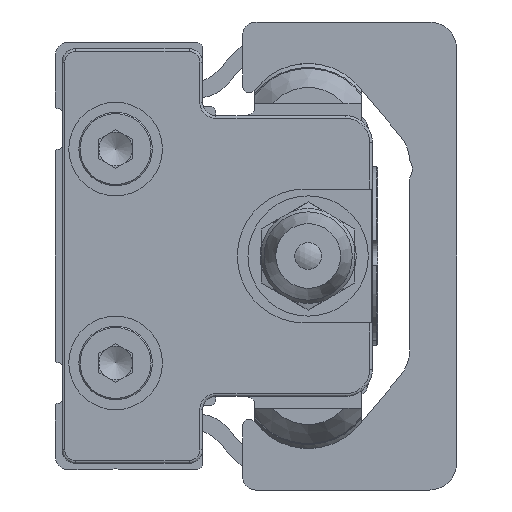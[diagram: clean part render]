
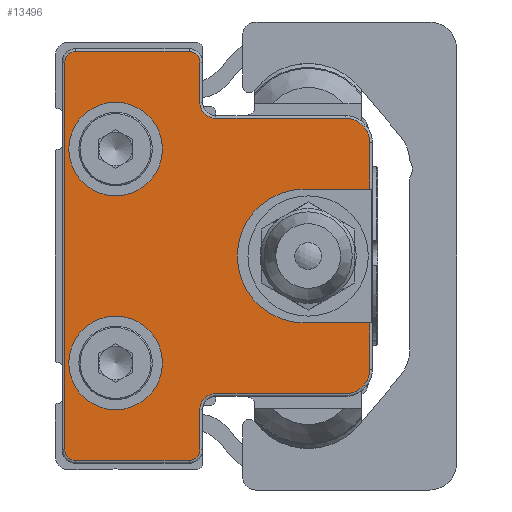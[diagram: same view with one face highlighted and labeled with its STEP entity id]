
A CAD part, left-side view. The second image highlights one B-rep face of the part: STEP entity #13496.
In plain terms, the highlighted planar face has unit normal (-1, 0, 0) as drawn and (0, 0, 1) by its records, which use the part's own axes.
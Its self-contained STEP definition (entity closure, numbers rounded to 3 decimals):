
#715=PLANE('',#15004);
#1609=LINE('',#23216,#2556);
#1610=LINE('',#23219,#2557);
#1611=LINE('',#23223,#2558);
#1612=LINE('',#23227,#2559);
#1613=LINE('',#23231,#2560);
#1614=LINE('',#23235,#2561);
#1615=LINE('',#23239,#2562);
#1616=LINE('',#23243,#2563);
#1617=LINE('',#23247,#2564);
#1618=LINE('',#23251,#2565);
#1619=LINE('',#23253,#2566);
#2556=VECTOR('',#18733,1000.);
#2557=VECTOR('',#18734,1000.);
#2558=VECTOR('',#18737,1000.);
#2559=VECTOR('',#18740,1000.);
#2560=VECTOR('',#18743,1000.);
#2561=VECTOR('',#18746,1000.);
#2562=VECTOR('',#18749,1000.);
#2563=VECTOR('',#18752,1000.);
#2564=VECTOR('',#18755,1000.);
#2565=VECTOR('',#18758,1000.);
#2566=VECTOR('',#18759,1000.);
#5782=ORIENTED_EDGE('',*,*,#7941,.F.);
#5783=ORIENTED_EDGE('',*,*,#7942,.F.);
#5784=ORIENTED_EDGE('',*,*,#7943,.F.);
#5785=ORIENTED_EDGE('',*,*,#7944,.T.);
#5786=ORIENTED_EDGE('',*,*,#7945,.T.);
#5787=ORIENTED_EDGE('',*,*,#7946,.T.);
#5788=ORIENTED_EDGE('',*,*,#7947,.T.);
#5789=ORIENTED_EDGE('',*,*,#7948,.T.);
#5790=ORIENTED_EDGE('',*,*,#7949,.T.);
#5791=ORIENTED_EDGE('',*,*,#7950,.T.);
#5792=ORIENTED_EDGE('',*,*,#7951,.T.);
#5793=ORIENTED_EDGE('',*,*,#7952,.T.);
#5794=ORIENTED_EDGE('',*,*,#7953,.T.);
#5795=ORIENTED_EDGE('',*,*,#7954,.T.);
#5796=ORIENTED_EDGE('',*,*,#7955,.T.);
#5797=ORIENTED_EDGE('',*,*,#7956,.T.);
#5798=ORIENTED_EDGE('',*,*,#7957,.T.);
#5799=ORIENTED_EDGE('',*,*,#7958,.T.);
#5800=ORIENTED_EDGE('',*,*,#7959,.T.);
#5801=ORIENTED_EDGE('',*,*,#7960,.T.);
#5802=ORIENTED_EDGE('',*,*,#7961,.F.);
#5803=ORIENTED_EDGE('',*,*,#7962,.F.);
#7941=EDGE_CURVE('',#9348,#9348,#10137,.T.);
#7942=EDGE_CURVE('',#9349,#9349,#10138,.T.);
#7943=EDGE_CURVE('',#9350,#9351,#1609,.T.);
#7944=EDGE_CURVE('',#9350,#9352,#1610,.T.);
#7945=EDGE_CURVE('',#9352,#9353,#10139,.T.);
#7946=EDGE_CURVE('',#9353,#9354,#1611,.T.);
#7947=EDGE_CURVE('',#9354,#9355,#10140,.F.);
#7948=EDGE_CURVE('',#9355,#9356,#1612,.T.);
#7949=EDGE_CURVE('',#9356,#9357,#10141,.T.);
#7950=EDGE_CURVE('',#9357,#9358,#1613,.T.);
#7951=EDGE_CURVE('',#9358,#9359,#10142,.T.);
#7952=EDGE_CURVE('',#9359,#9360,#1614,.T.);
#7953=EDGE_CURVE('',#9360,#9361,#10143,.T.);
#7954=EDGE_CURVE('',#9361,#9362,#1615,.T.);
#7955=EDGE_CURVE('',#9362,#9363,#10144,.T.);
#7956=EDGE_CURVE('',#9363,#9364,#1616,.T.);
#7957=EDGE_CURVE('',#9364,#9365,#10145,.F.);
#7958=EDGE_CURVE('',#9365,#9366,#1617,.T.);
#7959=EDGE_CURVE('',#9366,#9367,#10146,.T.);
#7960=EDGE_CURVE('',#9367,#9368,#1618,.T.);
#7961=EDGE_CURVE('',#9369,#9368,#1619,.T.);
#7962=EDGE_CURVE('',#9351,#9369,#10147,.T.);
#9348=VERTEX_POINT('',#23213);
#9349=VERTEX_POINT('',#23215);
#9350=VERTEX_POINT('',#23217);
#9351=VERTEX_POINT('',#23218);
#9352=VERTEX_POINT('',#23220);
#9353=VERTEX_POINT('',#23222);
#9354=VERTEX_POINT('',#23224);
#9355=VERTEX_POINT('',#23226);
#9356=VERTEX_POINT('',#23228);
#9357=VERTEX_POINT('',#23230);
#9358=VERTEX_POINT('',#23232);
#9359=VERTEX_POINT('',#23234);
#9360=VERTEX_POINT('',#23236);
#9361=VERTEX_POINT('',#23238);
#9362=VERTEX_POINT('',#23240);
#9363=VERTEX_POINT('',#23242);
#9364=VERTEX_POINT('',#23244);
#9365=VERTEX_POINT('',#23246);
#9366=VERTEX_POINT('',#23248);
#9367=VERTEX_POINT('',#23250);
#9368=VERTEX_POINT('',#23252);
#9369=VERTEX_POINT('',#23254);
#10137=CIRCLE('',#15005,3.5);
#10138=CIRCLE('',#15006,3.5);
#10139=CIRCLE('',#15007,1.8);
#10140=CIRCLE('',#15008,1.2);
#10141=CIRCLE('',#15009,0.8);
#10142=CIRCLE('',#15010,0.8);
#10143=CIRCLE('',#15011,0.8);
#10144=CIRCLE('',#15012,0.8);
#10145=CIRCLE('',#15013,1.2);
#10146=CIRCLE('',#15014,1.8);
#10147=CIRCLE('',#15015,5.);
#11208=EDGE_LOOP('',(#5782));
#11209=EDGE_LOOP('',(#5783));
#11210=EDGE_LOOP('',(#5784,#5785,#5786,#5787,#5788,#5789,#5790,#5791,#5792,
#5793,#5794,#5795,#5796,#5797,#5798,#5799,#5800,#5801,#5802,#5803));
#12349=FACE_BOUND('',#11208,.T.);
#12350=FACE_BOUND('',#11209,.T.);
#12351=FACE_BOUND('',#11210,.T.);
#13496=ADVANCED_FACE('',(#12349,#12350,#12351),#715,.T.);
#15004=AXIS2_PLACEMENT_3D('',#23211,#18727,#18728);
#15005=AXIS2_PLACEMENT_3D('',#23212,#18729,#18730);
#15006=AXIS2_PLACEMENT_3D('',#23214,#18731,#18732);
#15007=AXIS2_PLACEMENT_3D('',#23221,#18735,#18736);
#15008=AXIS2_PLACEMENT_3D('',#23225,#18738,#18739);
#15009=AXIS2_PLACEMENT_3D('',#23229,#18741,#18742);
#15010=AXIS2_PLACEMENT_3D('',#23233,#18744,#18745);
#15011=AXIS2_PLACEMENT_3D('',#23237,#18747,#18748);
#15012=AXIS2_PLACEMENT_3D('',#23241,#18750,#18751);
#15013=AXIS2_PLACEMENT_3D('',#23245,#18753,#18754);
#15014=AXIS2_PLACEMENT_3D('',#23249,#18756,#18757);
#15015=AXIS2_PLACEMENT_3D('',#23255,#18760,#18761);
#18727=DIRECTION('',(0.,0.,1.));
#18728=DIRECTION('',(1.,0.,0.));
#18729=DIRECTION('',(0.,0.,1.));
#18730=DIRECTION('',(1.,0.,0.));
#18731=DIRECTION('',(0.,0.,1.));
#18732=DIRECTION('',(1.,0.,0.));
#18733=DIRECTION('',(0.,1.,0.));
#18734=DIRECTION('',(1.,0.,0.));
#18735=DIRECTION('',(0.,0.,1.));
#18736=DIRECTION('',(1.,0.,0.));
#18737=DIRECTION('',(0.,1.,0.));
#18738=DIRECTION('',(0.,0.,1.));
#18739=DIRECTION('',(1.,0.,0.));
#18740=DIRECTION('',(1.,0.,0.));
#18741=DIRECTION('',(0.,0.,1.));
#18742=DIRECTION('',(1.,0.,0.));
#18743=DIRECTION('',(0.,1.,0.));
#18744=DIRECTION('',(0.,0.,1.));
#18745=DIRECTION('',(1.,0.,0.));
#18746=DIRECTION('',(-1.,0.,0.));
#18747=DIRECTION('',(0.,0.,1.));
#18748=DIRECTION('',(1.,0.,0.));
#18749=DIRECTION('',(0.,-1.,0.));
#18750=DIRECTION('',(0.,0.,1.));
#18751=DIRECTION('',(1.,0.,0.));
#18752=DIRECTION('',(1.,0.,0.));
#18753=DIRECTION('',(0.,0.,1.));
#18754=DIRECTION('',(1.,0.,0.));
#18755=DIRECTION('',(0.,-1.,0.));
#18756=DIRECTION('',(0.,0.,1.));
#18757=DIRECTION('',(1.,0.,0.));
#18758=DIRECTION('',(1.,0.,0.));
#18759=DIRECTION('',(0.,-1.,0.));
#18760=DIRECTION('',(0.,0.,1.));
#18761=DIRECTION('',(1.,0.,0.));
#23211=CARTESIAN_POINT('',(-14.5,-9.5,4.8));
#23212=CARTESIAN_POINT('',(-8.,-4.,4.8));
#23213=CARTESIAN_POINT('',(-4.5,-4.,4.8));
#23214=CARTESIAN_POINT('',(8.,-4.,4.8));
#23215=CARTESIAN_POINT('',(11.5,-4.,4.8));
#23216=CARTESIAN_POINT('',(5.,-24.1,4.8));
#23217=CARTESIAN_POINT('',(5.,-23.,4.8));
#23218=CARTESIAN_POINT('',(5.,-18.1,4.8));
#23219=CARTESIAN_POINT('',(8.5,-23.,4.8));
#23220=CARTESIAN_POINT('',(8.5,-23.,4.8));
#23221=CARTESIAN_POINT('',(8.5,-21.2,4.8));
#23222=CARTESIAN_POINT('',(10.3,-21.2,4.8));
#23223=CARTESIAN_POINT('',(10.3,-11.5,4.8));
#23224=CARTESIAN_POINT('',(10.3,-11.5,4.8));
#23225=CARTESIAN_POINT('',(11.5,-11.5,4.8));
#23226=CARTESIAN_POINT('',(11.5,-10.3,4.8));
#23227=CARTESIAN_POINT('',(14.5,-10.3,4.8));
#23228=CARTESIAN_POINT('',(14.5,-10.3,4.8));
#23229=CARTESIAN_POINT('',(14.5,-9.5,4.8));
#23230=CARTESIAN_POINT('',(15.3,-9.5,4.8));
#23231=CARTESIAN_POINT('',(15.3,-1.,4.8));
#23232=CARTESIAN_POINT('',(15.3,-1.,4.8));
#23233=CARTESIAN_POINT('',(14.5,-1.,4.8));
#23234=CARTESIAN_POINT('',(14.5,-0.2,4.8));
#23235=CARTESIAN_POINT('',(-14.5,-0.2,4.8));
#23236=CARTESIAN_POINT('',(-14.5,-0.2,4.8));
#23237=CARTESIAN_POINT('',(-14.5,-1.,4.8));
#23238=CARTESIAN_POINT('',(-15.3,-1.,4.8));
#23239=CARTESIAN_POINT('',(-15.3,-9.5,4.8));
#23240=CARTESIAN_POINT('',(-15.3,-9.5,4.8));
#23241=CARTESIAN_POINT('',(-14.5,-9.5,4.8));
#23242=CARTESIAN_POINT('',(-14.5,-10.3,4.8));
#23243=CARTESIAN_POINT('',(-11.5,-10.3,4.8));
#23244=CARTESIAN_POINT('',(-11.5,-10.3,4.8));
#23245=CARTESIAN_POINT('',(-11.5,-11.5,4.8));
#23246=CARTESIAN_POINT('',(-10.3,-11.5,4.8));
#23247=CARTESIAN_POINT('',(-10.3,-21.2,4.8));
#23248=CARTESIAN_POINT('',(-10.3,-21.2,4.8));
#23249=CARTESIAN_POINT('',(-8.5,-21.2,4.8));
#23250=CARTESIAN_POINT('',(-8.5,-23.,4.8));
#23251=CARTESIAN_POINT('',(-5.,-23.,4.8));
#23252=CARTESIAN_POINT('',(-5.,-23.,4.8));
#23253=CARTESIAN_POINT('',(-5.,-18.1,4.8));
#23254=CARTESIAN_POINT('',(-5.,-18.1,4.8));
#23255=CARTESIAN_POINT('',(0.,-18.1,4.8));
